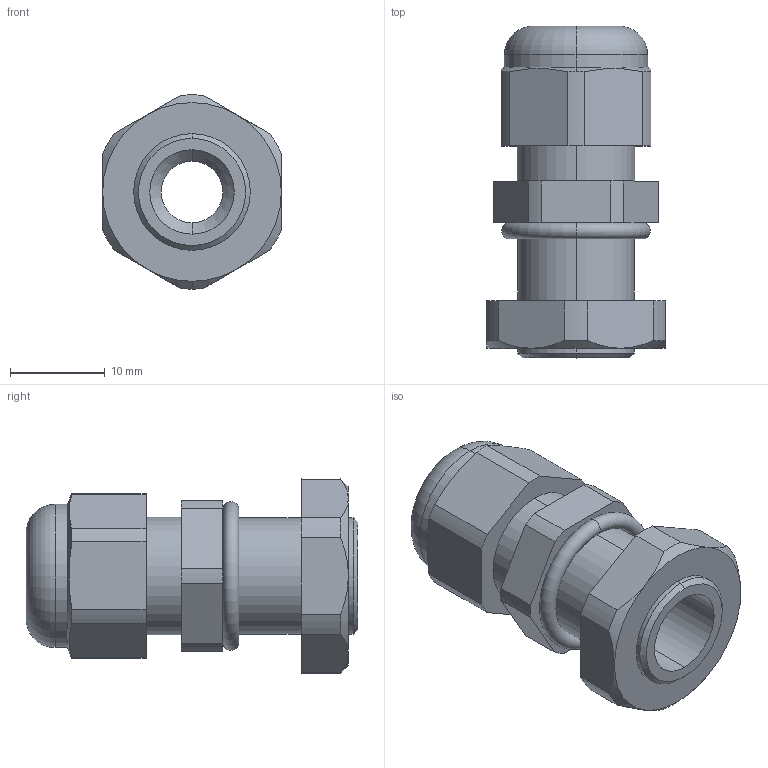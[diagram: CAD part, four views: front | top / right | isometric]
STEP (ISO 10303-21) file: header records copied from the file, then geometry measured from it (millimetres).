
FILE_DESCRIPTION (( 'STEP AP203' ), '1' );
FILE_NAME ('CH-PG7L.STEP', '2018-02-07T14:41:20', ( '' ), ( '' ), 'SwSTEP 2.0', 'SolidWorks 2012', '' );
FILE_SCHEMA (( 'CONFIG_CONTROL_DESIGN' ));
Length unit declared in the file: millimetre
Products named in the file (1): CH-PG7L
Bounding box: 18.85 x 35 x 20.49 mm (x, y, z)
Volume: 4733 mm3; surface area: 3499.6 mm2
Topology: 1 solids, 1 shells, 78 faces, 189 edges, 118 vertices
Faces by surface type: cylinder 34, plane 25, cone 15, torus 4
Entity records: 2434 total; most frequent: CARTESIAN_POINT 488, DIRECTION 415, ORIENTED_EDGE 378, EDGE_CURVE 189, AXIS2_PLACEMENT_3D 165, VERTEX_POINT 118, CIRCLE 86, VECTOR 85
